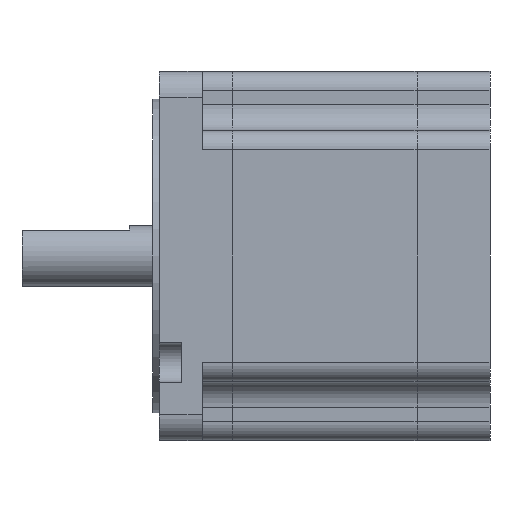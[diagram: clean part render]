
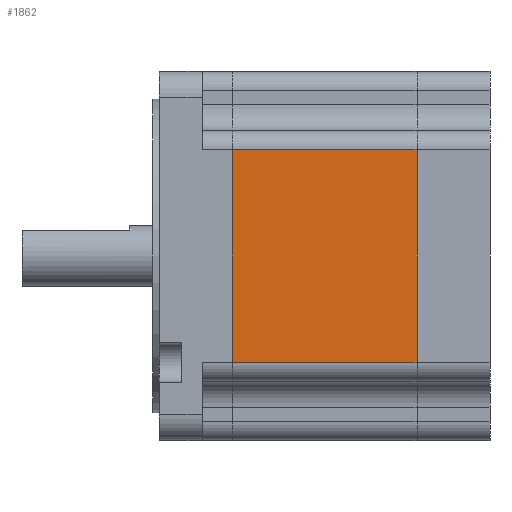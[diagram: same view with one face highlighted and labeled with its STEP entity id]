
A CAD part, left-side view. The second image highlights one B-rep face of the part: STEP entity #1862.
In plain terms, the highlighted planar face has unit normal (-1, 0, 0).
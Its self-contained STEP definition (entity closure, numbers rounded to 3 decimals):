
#331 = VERTEX_POINT ( 'NONE', #2671 ) ;
#639 = EDGE_LOOP ( 'NONE', ( #3779, #3950, #4688, #3893 ) ) ;
#767 = VECTOR ( 'NONE', #1402, 1000. ) ;
#902 = LINE ( 'NONE', #1864, #767 ) ;
#973 = LINE ( 'NONE', #4436, #5523 ) ;
#1143 = VERTEX_POINT ( 'NONE', #4365 ) ;
#1150 = CARTESIAN_POINT ( 'NONE',  ( 0., 0., -18.2 ) ) ;
#1402 = DIRECTION ( 'NONE',  ( 0., 0., 1. ) ) ;
#1564 = VECTOR ( 'NONE', #2573, 1000. ) ;
#1597 = CARTESIAN_POINT ( 'NONE',  ( 0., 43., -67.8 ) ) ;
#1615 = AXIS2_PLACEMENT_3D ( 'NONE', #5686, #1776, #5727 ) ;
#1677 = FACE_OUTER_BOUND ( 'NONE', #639, .T. ) ;
#1776 = DIRECTION ( 'NONE',  ( 1., 0., 0. ) ) ;
#1862 = ADVANCED_FACE ( 'NONE', ( #1677 ), #3117, .F. ) ;
#1864 = CARTESIAN_POINT ( 'NONE',  ( 0., 0., -67.8 ) ) ;
#1942 = VECTOR ( 'NONE', #2925, 1000. ) ;
#1981 = EDGE_CURVE ( 'NONE', #3864, #331, #973, .T. ) ;
#2068 = LINE ( 'NONE', #1597, #1942 ) ;
#2234 = VERTEX_POINT ( 'NONE', #1150 ) ;
#2531 = EDGE_CURVE ( 'NONE', #1143, #2234, #902, .T. ) ;
#2573 = DIRECTION ( 'NONE',  ( 0., -1., 0. ) ) ;
#2671 = CARTESIAN_POINT ( 'NONE',  ( 0., 43., -18.2 ) ) ;
#2893 = LINE ( 'NONE', #3895, #1564 ) ;
#2925 = DIRECTION ( 'NONE',  ( 0., -1., 0. ) ) ;
#3021 = CARTESIAN_POINT ( 'NONE',  ( 0., 43., -67.8 ) ) ;
#3117 = PLANE ( 'NONE',  #1615 ) ;
#3364 = EDGE_CURVE ( 'NONE', #3864, #1143, #2068, .T. ) ;
#3779 = ORIENTED_EDGE ( 'NONE', *, *, #2531, .T. ) ;
#3864 = VERTEX_POINT ( 'NONE', #3021 ) ;
#3893 = ORIENTED_EDGE ( 'NONE', *, *, #3364, .T. ) ;
#3895 = CARTESIAN_POINT ( 'NONE',  ( 0., 43., -18.2 ) ) ;
#3950 = ORIENTED_EDGE ( 'NONE', *, *, #4592, .F. ) ;
#4365 = CARTESIAN_POINT ( 'NONE',  ( 0., 0., -67.8 ) ) ;
#4378 = DIRECTION ( 'NONE',  ( 0., 0., 1. ) ) ;
#4436 = CARTESIAN_POINT ( 'NONE',  ( 0., 43., -67.8 ) ) ;
#4592 = EDGE_CURVE ( 'NONE', #331, #2234, #2893, .T. ) ;
#4688 = ORIENTED_EDGE ( 'NONE', *, *, #1981, .F. ) ;
#5523 = VECTOR ( 'NONE', #4378, 1000. ) ;
#5686 = CARTESIAN_POINT ( 'NONE',  ( 0., 43., -67.8 ) ) ;
#5727 = DIRECTION ( 'NONE',  ( 0., 0., -1. ) ) ;
